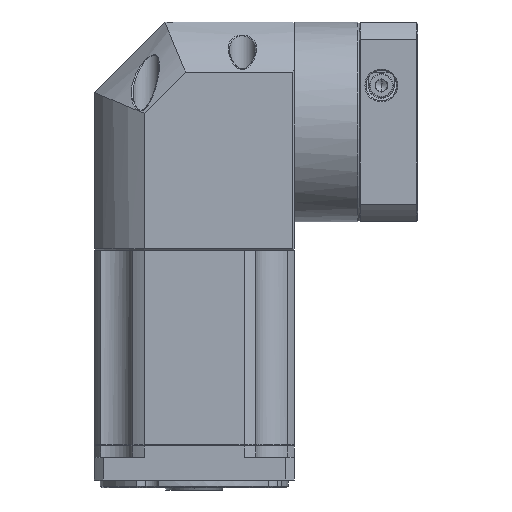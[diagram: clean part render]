
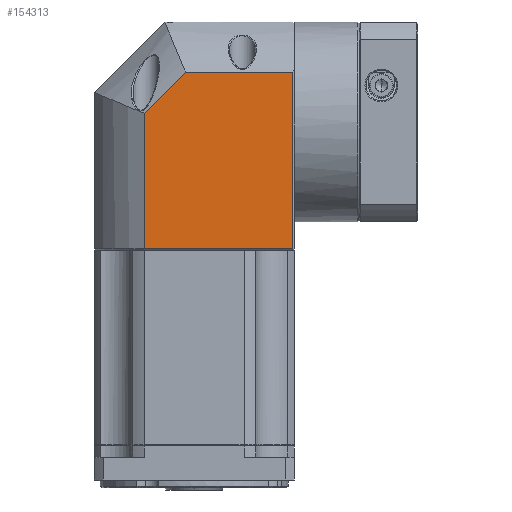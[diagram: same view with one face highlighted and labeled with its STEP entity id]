
A CAD part, front view. The second image highlights one B-rep face of the part: STEP entity #154313.
In plain terms, the highlighted planar face has unit normal (0, -1, 0).
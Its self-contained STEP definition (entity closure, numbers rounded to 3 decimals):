
#2116 = LINE ( 'NONE', #36028, #67486 ) ;
#3751 = VECTOR ( 'NONE', #49129, 1000. ) ;
#10207 = CARTESIAN_POINT ( 'NONE',  ( 0.041, 100.105, -4.602 ) ) ;
#13316 = ORIENTED_EDGE ( 'NONE', *, *, #106473, .F. ) ;
#20415 = ORIENTED_EDGE ( 'NONE', *, *, #51005, .F. ) ;
#25913 = CARTESIAN_POINT ( 'NONE',  ( 63.755, 100.105, -62.284 ) ) ;
#27729 = VERTEX_POINT ( 'NONE', #66385 ) ;
#36028 = CARTESIAN_POINT ( 'NONE',  ( 63.255, 100.105, 34.216 ) ) ;
#37241 = EDGE_LOOP ( 'NONE', ( #144044, #132790, #13316, #55329, #20415 ) ) ;
#38622 = LINE ( 'NONE', #10207, #3751 ) ;
#44803 = CARTESIAN_POINT ( 'NONE',  ( 63.755, 100.105, 34.216 ) ) ;
#45894 = VERTEX_POINT ( 'NONE', #90170 ) ;
#47776 = CARTESIAN_POINT ( 'NONE',  ( 17.572, 100.105, 12.929 ) ) ;
#49129 = DIRECTION ( 'NONE',  ( 0.707, 0., 0.707 ) ) ;
#50142 = CARTESIAN_POINT ( 'NONE',  ( 0.041, 100.105, -4.602 ) ) ;
#50286 = DIRECTION ( 'NONE',  ( 1., 0., 0. ) ) ;
#51005 = EDGE_CURVE ( 'NONE', #136322, #83259, #154602, .T. ) ;
#52581 = VECTOR ( 'NONE', #50286, 1000. ) ;
#55329 = ORIENTED_EDGE ( 'NONE', *, *, #157120, .F. ) ;
#57878 = DIRECTION ( 'NONE',  ( -1., 0., 0. ) ) ;
#66385 = CARTESIAN_POINT ( 'NONE',  ( 63.255, 100.105, -62.284 ) ) ;
#67486 = VECTOR ( 'NONE', #115391, 1000. ) ;
#68482 = AXIS2_PLACEMENT_3D ( 'NONE', #44803, #135999, #57878 ) ;
#70362 = PLANE ( 'NONE',  #68482 ) ;
#73008 = EDGE_CURVE ( 'NONE', #136322, #27729, #130628, .T. ) ;
#76460 = CARTESIAN_POINT ( 'NONE',  ( 63.755, 100.105, 12.929 ) ) ;
#77311 = CARTESIAN_POINT ( 'NONE',  ( 0.041, 100.105, 34.216 ) ) ;
#82054 = CARTESIAN_POINT ( 'NONE',  ( 0.041, 100.105, -62.284 ) ) ;
#83259 = VERTEX_POINT ( 'NONE', #50142 ) ;
#87310 = LINE ( 'NONE', #76460, #52581 ) ;
#89293 = VECTOR ( 'NONE', #105865, 1000. ) ;
#90170 = CARTESIAN_POINT ( 'NONE',  ( 63.255, 100.105, 12.929 ) ) ;
#91013 = DIRECTION ( 'NONE',  ( 1., 0., 0. ) ) ;
#98068 = VERTEX_POINT ( 'NONE', #47776 ) ;
#105865 = DIRECTION ( 'NONE',  ( 0., 0., 1. ) ) ;
#106473 = EDGE_CURVE ( 'NONE', #98068, #45894, #87310, .T. ) ;
#115391 = DIRECTION ( 'NONE',  ( 0., 0., -1. ) ) ;
#126631 = VECTOR ( 'NONE', #91013, 1000. ) ;
#128425 = FACE_OUTER_BOUND ( 'NONE', #37241, .T. ) ;
#130628 = LINE ( 'NONE', #25913, #126631 ) ;
#132790 = ORIENTED_EDGE ( 'NONE', *, *, #153481, .F. ) ;
#135999 = DIRECTION ( 'NONE',  ( 0., 1., 0. ) ) ;
#136322 = VERTEX_POINT ( 'NONE', #82054 ) ;
#144044 = ORIENTED_EDGE ( 'NONE', *, *, #73008, .T. ) ;
#153481 = EDGE_CURVE ( 'NONE', #45894, #27729, #2116, .T. ) ;
#154313 = ADVANCED_FACE ( 'NONE', ( #128425 ), #70362, .F. ) ;
#154602 = LINE ( 'NONE', #77311, #89293 ) ;
#157120 = EDGE_CURVE ( 'NONE', #83259, #98068, #38622, .T. ) ;
